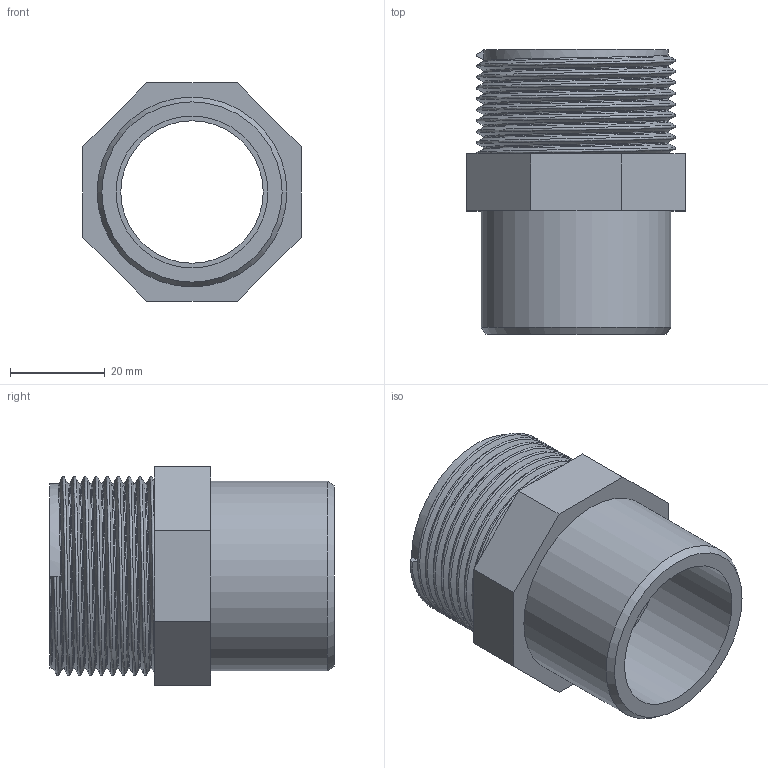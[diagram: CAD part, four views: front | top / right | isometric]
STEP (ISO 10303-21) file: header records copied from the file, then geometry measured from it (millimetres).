
FILE_DESCRIPTION(/* description */ ('PVC adattatore incollaggio-filettatura BSP maschio'),/* implementation_level */ '2;1');
FILE_NAME(/* name */ 'C:\Users\POLYPIPE\Desktop\DATASET INVENTOR\LIBRERIA EFFAST\RACCORDI 3DxWEB\RGR\3D_RGRAMG\3D_RGRAMG032E.stp',/* time_stamp */ '2018-01-19T17:35:36+01:00',/* author */ ('POLYPIPE'),/* organization */ ('Polypipe Italia s.r.l.'),/* preprocessor_version */ 'ST-DEVELOPER v16.1',/* originating_system */ 'Autodesk Inventor 2016',/* authorisation */ '');
FILE_SCHEMA (('CONFIG_CONTROL_DESIGN'));
Length unit declared in the file: millimetre
Products named in the file (1): 3D_RGRAMG
Bounding box: 46 x 60 x 46 mm (x, y, z)
Volume: 35878.2 mm3; surface area: 17560.6 mm2
Topology: 1 solids, 1 shells, 26 faces, 56 edges, 36 vertices
Faces by surface type: plane 15, cylinder 5, bspline 5, cone 1
Full cylindrical faces by diameter (mm): 30 x1, 31 x1, 32 x1, 38.952 x1, 40 x1
Entity records: 4147 total; most frequent: CARTESIAN_POINT 3594, ORIENTED_EDGE 102, DIRECTION 97, EDGE_CURVE 51, EDGE_LOOP 37, VERTEX_POINT 36, AXIS2_PLACEMENT_3D 35, LINE 27
